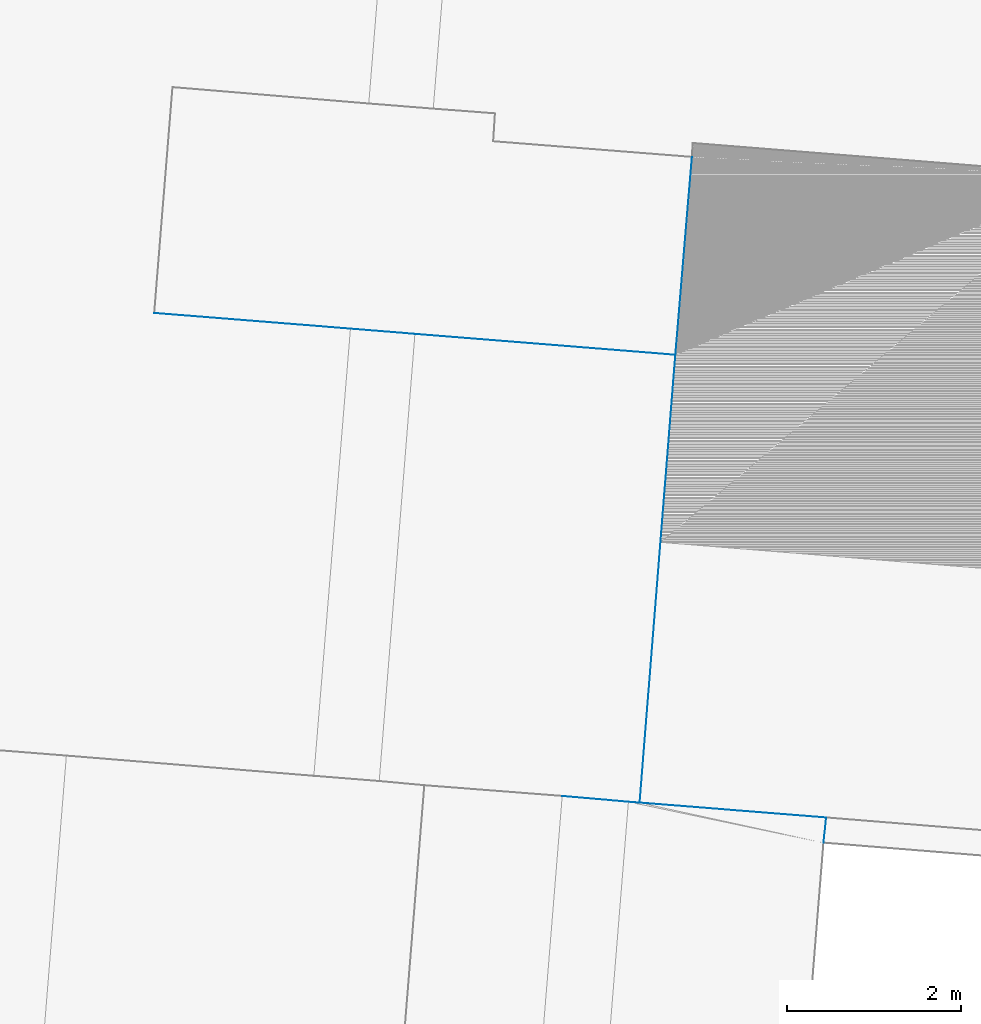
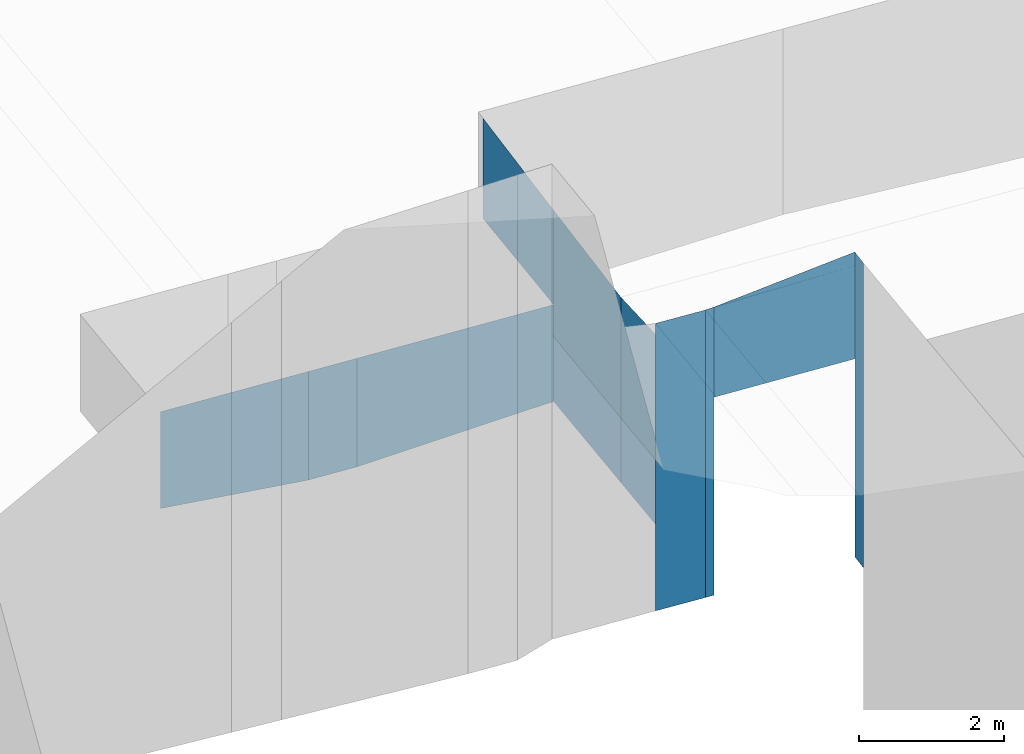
# Not in any storey, part 79 of 136: 10 walls.
"""IFC4 building model written with IfcOpenShell, lengths in metres."""

from ifc_helpers import new_model, entity, si_unit, converted_unit, origin, place, context, subcontext, project, spatial, face_set, surface_model, element, save


model = new_model("IFC4")

# Units and contexts
model_context = context("Model", 3, precision=1e-05, world=origin())
body_context = subcontext(model_context, "Body", "Model", "MODEL_VIEW")
ifc_project = project(units=[converted_unit("PLANEANGLEUNIT", "DEGREE", entity("IfcRatioMeasure", 0.0174532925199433), si_unit("PLANEANGLEUNIT", "RADIAN"), dimensions=[0, 0, 0, 0, 0, 0, 0]), si_unit("AREAUNIT", "SQUARE_METRE"), si_unit("LENGTHUNIT", "METRE")], contexts=[model_context])

# Site, building
site_placement = place(None, origin())
site = spatial("IfcSite", under=ifc_project, at=site_placement, Name="_site")
building_placement = place(site_placement, origin())
building = spatial("IfcBuilding", under=site, at=building_placement, Name="_building")

# Walls
wall_1_placement = place(building_placement, origin())
element("IfcWall", 1, at=wall_1_placement, inside=building, Name="Wall", PredefinedType="NOTDEFINED", context=body_context, shape_type="SurfaceModel", body=[
    surface_model("IfcFaceBasedSurfaceModel", [(225.16, 111.19, 49.85), (224.42, 111.25, 49.85), (224.42, 111.25, 48.02), (225.16, 111.19, 48.02)], [face_set([[[0, 1, 2, 3]]])]),
])
wall_2_placement = place(building_placement, origin())
element("IfcWall", 2, at=wall_2_placement, inside=building, Name="Wall", PredefinedType="NOTDEFINED", context=body_context, shape_type="SurfaceModel", body=[
    surface_model("IfcFaceBasedSurfaceModel", [(227.74, 105.811, 53.07), (229.88, 105.64, 53.35), (229.88, 105.64, 51.55), (227.74, 105.811, 51.55)], [face_set([[[0, 1, 2, 3]]])]),
])
wall_3_placement = place(building_placement, origin())
element("IfcWall", 3, at=wall_3_placement, inside=building, Name="Wall", PredefinedType="NOTDEFINED", context=body_context, shape_type="SurfaceModel", body=[
    surface_model("IfcFaceBasedSurfaceModel", [(227.61, 105.821, 53.06), (227.74, 105.811, 53.07), (227.74, 105.811, 48.22), (227.61, 105.821, 48.22)], [face_set([[[0, 1, 2, 3]]])]),
])
wall_4_placement = place(building_placement, origin())
element("IfcWall", 4, at=wall_4_placement, inside=building, Name="Wall", PredefinedType="NOTDEFINED", context=body_context, shape_type="SurfaceModel", body=[
    surface_model("IfcFaceBasedSurfaceModel", [(228.15, 110.95, 49.85), (225.16, 111.19, 49.85), (225.16, 111.19, 48.02), (228.15, 110.95, 48.22)], [face_set([[[0, 1, 2, 3]]])]),
])
wall_5_placement = place(building_placement, origin())
element("IfcWall", 5, at=wall_5_placement, inside=building, Name="Wall", PredefinedType="NOTDEFINED", context=body_context, shape_type="SurfaceModel", body=[
    surface_model("IfcFaceBasedSurfaceModel", [(229.88, 105.64, 53.35), (229.85, 105.351, 53.35), (229.85, 105.351, 48.22), (229.88, 105.64, 48.22)], [face_set([[[0, 1, 2, 3]]])]),
])
wall_6_placement = place(building_placement, origin())
element("IfcWall", 6, at=wall_6_placement, inside=building, Name="Wall", PredefinedType="NOTDEFINED", context=body_context, shape_type="SurfaceModel", body=[
    surface_model("IfcFaceBasedSurfaceModel", [(226.85, 105.887, 53.06), (227.61, 105.821, 53.06), (227.61, 105.821, 48.22), (226.85, 105.887, 48.22)], [face_set([[[0, 1, 2, 3]]])]),
])
wall_7_placement = place(building_placement, origin())
element("IfcWall", 7, at=wall_7_placement, inside=building, Name="Wall", PredefinedType="NOTDEFINED", context=body_context, shape_type="SurfaceModel", body=[
    surface_model("IfcFaceBasedSurfaceModel", [(228.15, 110.95, 51.44), (228.34, 113.22, 51.54), (228.34, 113.22, 49.85), (228.15, 110.95, 49.85)], [face_set([[[0, 1, 2, 3]]])]),
])
wall_8_placement = place(building_placement, origin())
element("IfcWall", 8, at=wall_8_placement, inside=building, Name="Wall", PredefinedType="NOTDEFINED", context=body_context, shape_type="SurfaceModel", body=[
    surface_model("IfcFaceBasedSurfaceModel", [(224.42, 111.25, 49.85), (222.17, 111.43, 49.85), (222.17, 111.43, 48.22), (224.42, 111.25, 48.02)], [face_set([[[0, 1, 2, 3]]])]),
])
wall_9_placement = place(building_placement, origin())
element("IfcWall", 9, at=wall_9_placement, inside=building, Name="Wall", PredefinedType="NOTDEFINED", context=body_context, shape_type="SurfaceModel", body=[
    surface_model("IfcFaceBasedSurfaceModel", [(227.979, 108.8, 51.34), (228.15, 110.95, 51.44), (228.15, 110.95, 48.22), (227.979, 108.8, 48.22)], [face_set([[[0, 1, 2, 3]]])]),
])
wall_10_placement = place(building_placement, origin())
element("IfcWall", 10, at=wall_10_placement, inside=building, Name="Wall", PredefinedType="NOTDEFINED", context=body_context, shape_type="SurfaceModel", body=[
    surface_model("IfcFaceBasedSurfaceModel", [(227.74, 105.811, 51.55), (227.979, 108.8, 51.34), (227.979, 108.8, 48.22), (227.74, 105.811, 48.22)], [face_set([[[0, 1, 2, 3]]])]),
])

save(model, "model.ifc")
